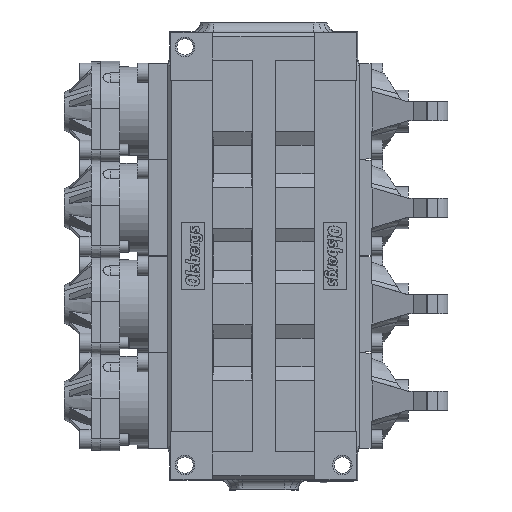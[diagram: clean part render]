
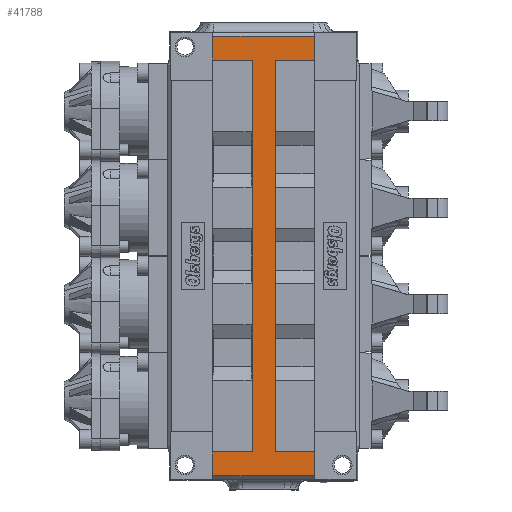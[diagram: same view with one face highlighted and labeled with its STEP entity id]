
A CAD part, front view. The second image highlights one B-rep face of the part: STEP entity #41788.
In plain terms, the highlighted planar face has unit normal (0, -1, 0).
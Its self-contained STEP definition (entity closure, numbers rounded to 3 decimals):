
#233 = CARTESIAN_POINT ( 'NONE',  ( -26.529, -27., 114.564 ) ) ;
#279 = DIRECTION ( 'NONE',  ( 0., 0., -1. ) ) ;
#620 = DIRECTION ( 'NONE',  ( -1., 0., 0. ) ) ;
#661 = DIRECTION ( 'NONE',  ( 1., 0., 0. ) ) ;
#794 = LINE ( 'NONE', #58023, #67267 ) ;
#1127 = VECTOR ( 'NONE', #83174, 1000. ) ;
#1559 = CARTESIAN_POINT ( 'NONE',  ( -6., -27., 102. ) ) ;
#5057 = LINE ( 'NONE', #33306, #82515 ) ;
#6900 = EDGE_CURVE ( 'NONE', #29448, #53653, #44558, .T. ) ;
#7632 = VECTOR ( 'NONE', #79657, 1000. ) ;
#8363 = CARTESIAN_POINT ( 'NONE',  ( 26.529, -27., 114.564 ) ) ;
#8630 = VECTOR ( 'NONE', #31309, 1000. ) ;
#8750 = VERTEX_POINT ( 'NONE', #34018 ) ;
#9314 = DIRECTION ( 'NONE',  ( 0., 0., -1. ) ) ;
#10195 = ORIENTED_EDGE ( 'NONE', *, *, #42620, .F. ) ;
#11165 = DIRECTION ( 'NONE',  ( 0., 0., -1. ) ) ;
#12662 = PLANE ( 'NONE',  #51939 ) ;
#14913 = VERTEX_POINT ( 'NONE', #233 ) ;
#17230 = LINE ( 'NONE', #56525, #1127 ) ;
#17336 = ORIENTED_EDGE ( 'NONE', *, *, #57570, .T. ) ;
#17393 = EDGE_CURVE ( 'NONE', #53653, #32954, #5057, .T. ) ;
#19790 = VECTOR ( 'NONE', #55211, 1000. ) ;
#20064 = LINE ( 'NONE', #26303, #53313 ) ;
#20225 = VECTOR ( 'NONE', #35664, 1000. ) ;
#22202 = VECTOR ( 'NONE', #9314, 1000. ) ;
#23633 = ORIENTED_EDGE ( 'NONE', *, *, #28570, .F. ) ;
#23901 = CARTESIAN_POINT ( 'NONE',  ( 26.529, -27., 102. ) ) ;
#24087 = CARTESIAN_POINT ( 'NONE',  ( -6., -27., -102. ) ) ;
#26303 = CARTESIAN_POINT ( 'NONE',  ( 26.529, -27., -114.564 ) ) ;
#27413 = VECTOR ( 'NONE', #11165, 1000. ) ;
#27931 = CARTESIAN_POINT ( 'NONE',  ( 26.529, -27., -114.564 ) ) ;
#28570 = EDGE_CURVE ( 'NONE', #49352, #55434, #17230, .T. ) ;
#28770 = VERTEX_POINT ( 'NONE', #29482 ) ;
#29448 = VERTEX_POINT ( 'NONE', #8363 ) ;
#29482 = CARTESIAN_POINT ( 'NONE',  ( 26.529, -27., -102. ) ) ;
#29890 = EDGE_CURVE ( 'NONE', #39701, #81813, #20064, .T. ) ;
#30619 = DIRECTION ( 'NONE',  ( 0., 0., -1. ) ) ;
#31290 = LINE ( 'NONE', #60215, #22202 ) ;
#31309 = DIRECTION ( 'NONE',  ( 1., 0., 0. ) ) ;
#32056 = ORIENTED_EDGE ( 'NONE', *, *, #35591, .F. ) ;
#32756 = DIRECTION ( 'NONE',  ( 0., 0., 1. ) ) ;
#32954 = VERTEX_POINT ( 'NONE', #67669 ) ;
#33306 = CARTESIAN_POINT ( 'NONE',  ( 26.529, -27., 102. ) ) ;
#33459 = EDGE_CURVE ( 'NONE', #8750, #48208, #44933, .T. ) ;
#34018 = CARTESIAN_POINT ( 'NONE',  ( -26.529, -27., -102. ) ) ;
#35591 = EDGE_CURVE ( 'NONE', #51032, #28770, #72736, .T. ) ;
#35664 = DIRECTION ( 'NONE',  ( -1., 0., 0. ) ) ;
#36154 = CARTESIAN_POINT ( 'NONE',  ( -26.529, -27., 102. ) ) ;
#36538 = CARTESIAN_POINT ( 'NONE',  ( 6., -27., 102. ) ) ;
#36559 = ORIENTED_EDGE ( 'NONE', *, *, #61032, .F. ) ;
#36649 = CARTESIAN_POINT ( 'NONE',  ( -6., -27., 102. ) ) ;
#39053 = FACE_OUTER_BOUND ( 'NONE', #81257, .T. ) ;
#39701 = VERTEX_POINT ( 'NONE', #67165 ) ;
#41788 = ADVANCED_FACE ( 'NONE', ( #39053 ), #12662, .T. ) ;
#42620 = EDGE_CURVE ( 'NONE', #39701, #8750, #42997, .T. ) ;
#42997 = LINE ( 'NONE', #79945, #7632 ) ;
#44436 = LINE ( 'NONE', #67686, #20225 ) ;
#44558 = LINE ( 'NONE', #68033, #27413 ) ;
#44933 = LINE ( 'NONE', #69743, #8630 ) ;
#47169 = CARTESIAN_POINT ( 'NONE',  ( 6., -27., -102. ) ) ;
#48208 = VERTEX_POINT ( 'NONE', #24087 ) ;
#49352 = VERTEX_POINT ( 'NONE', #1559 ) ;
#51032 = VERTEX_POINT ( 'NONE', #47169 ) ;
#51843 = DIRECTION ( 'NONE',  ( 0., -1., 0. ) ) ;
#51939 = AXIS2_PLACEMENT_3D ( 'NONE', #57685, #51843, #279 ) ;
#53093 = VECTOR ( 'NONE', #30619, 1000. ) ;
#53313 = VECTOR ( 'NONE', #65077, 1000. ) ;
#53653 = VERTEX_POINT ( 'NONE', #23901 ) ;
#54626 = ORIENTED_EDGE ( 'NONE', *, *, #33459, .F. ) ;
#55211 = DIRECTION ( 'NONE',  ( 0., 0., 1. ) ) ;
#55434 = VERTEX_POINT ( 'NONE', #36154 ) ;
#56525 = CARTESIAN_POINT ( 'NONE',  ( -26.529, -27., 102. ) ) ;
#57160 = LINE ( 'NONE', #36538, #53093 ) ;
#57570 = EDGE_CURVE ( 'NONE', #29448, #14913, #44436, .T. ) ;
#57685 = CARTESIAN_POINT ( 'NONE',  ( -52., -27., 117. ) ) ;
#58023 = CARTESIAN_POINT ( 'NONE',  ( 26.529, -27., -116.529 ) ) ;
#58915 = EDGE_CURVE ( 'NONE', #14913, #55434, #31290, .T. ) ;
#58947 = ORIENTED_EDGE ( 'NONE', *, *, #6900, .F. ) ;
#60215 = CARTESIAN_POINT ( 'NONE',  ( -26.529, -27., 116.529 ) ) ;
#61032 = EDGE_CURVE ( 'NONE', #32954, #51032, #57160, .T. ) ;
#62410 = ORIENTED_EDGE ( 'NONE', *, *, #83070, .T. ) ;
#64081 = EDGE_CURVE ( 'NONE', #48208, #49352, #79208, .T. ) ;
#65077 = DIRECTION ( 'NONE',  ( 1., 0., 0. ) ) ;
#65617 = ORIENTED_EDGE ( 'NONE', *, *, #58915, .T. ) ;
#65632 = CARTESIAN_POINT ( 'NONE',  ( 26.529, -27., -102. ) ) ;
#67165 = CARTESIAN_POINT ( 'NONE',  ( -26.529, -27., -114.564 ) ) ;
#67267 = VECTOR ( 'NONE', #32756, 1000. ) ;
#67669 = CARTESIAN_POINT ( 'NONE',  ( 6., -27., 102. ) ) ;
#67686 = CARTESIAN_POINT ( 'NONE',  ( -26.529, -27., 114.564 ) ) ;
#67819 = VECTOR ( 'NONE', #661, 1000. ) ;
#68033 = CARTESIAN_POINT ( 'NONE',  ( 26.529, -27., 116.529 ) ) ;
#68672 = ORIENTED_EDGE ( 'NONE', *, *, #17393, .F. ) ;
#69743 = CARTESIAN_POINT ( 'NONE',  ( -6., -27., -102. ) ) ;
#72736 = LINE ( 'NONE', #65632, #67819 ) ;
#72798 = ORIENTED_EDGE ( 'NONE', *, *, #29890, .T. ) ;
#75397 = ORIENTED_EDGE ( 'NONE', *, *, #64081, .F. ) ;
#79208 = LINE ( 'NONE', #36649, #19790 ) ;
#79657 = DIRECTION ( 'NONE',  ( 0., 0., 1. ) ) ;
#79945 = CARTESIAN_POINT ( 'NONE',  ( -26.529, -27., -116.529 ) ) ;
#81257 = EDGE_LOOP ( 'NONE', ( #32056, #36559, #68672, #58947, #17336, #65617, #23633, #75397, #54626, #10195, #72798, #62410 ) ) ;
#81813 = VERTEX_POINT ( 'NONE', #27931 ) ;
#82515 = VECTOR ( 'NONE', #620, 1000. ) ;
#83070 = EDGE_CURVE ( 'NONE', #81813, #28770, #794, .T. ) ;
#83174 = DIRECTION ( 'NONE',  ( -1., 0., 0. ) ) ;
